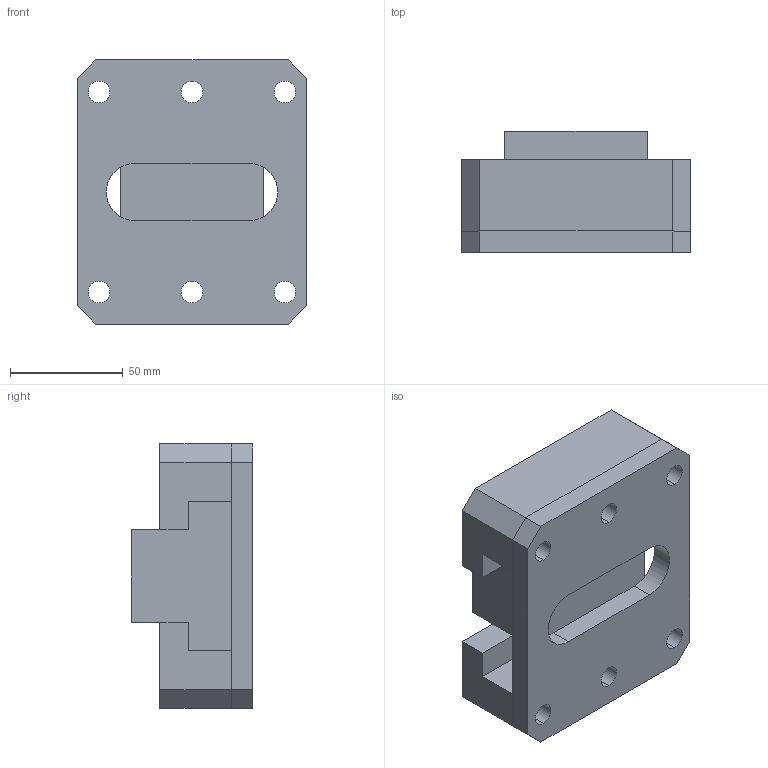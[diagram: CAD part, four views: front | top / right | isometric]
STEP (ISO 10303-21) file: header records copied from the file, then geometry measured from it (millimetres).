
FILE_DESCRIPTION (( 'STEP AP203' ), '1' );
FILE_NAME ('6GA32GTS.step', '2014-04-09T00:55:50', ( '' ), ( '' ), 'SwSTEP 2.0', 'SolidWorks 2009', '' );
FILE_SCHEMA (( 'CONFIG_CONTROL_DESIGN' ));
Length unit declared in the file: inch
Products named in the file (1): 6GA32GTS
Bounding box: 101.6 x 53.98 x 117.35 mm (x, y, z)
Volume: 406302.5 mm3; surface area: 84847.2 mm2
Topology: 4 solids, 4 shells, 94 faces, 240 edges, 160 vertices
Faces by surface type: plane 48, cylinder 46
Entity records: 3017 total; most frequent: DIRECTION 522, CARTESIAN_POINT 495, ORIENTED_EDGE 480, EDGE_CURVE 240, AXIS2_PLACEMENT_3D 187, VERTEX_POINT 160, VECTOR 148, LINE 148
